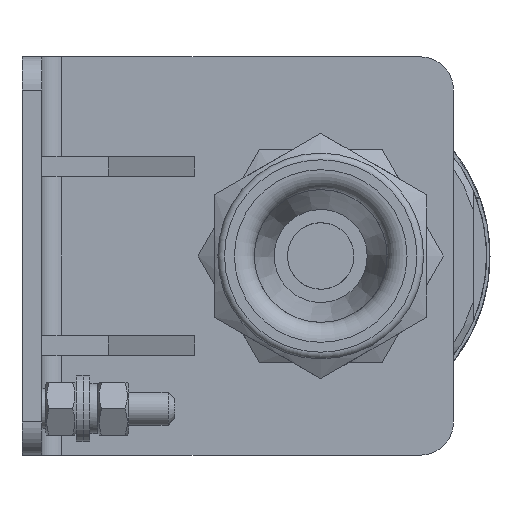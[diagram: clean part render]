
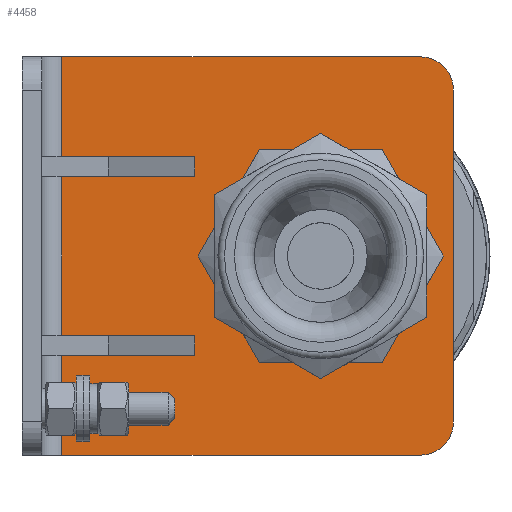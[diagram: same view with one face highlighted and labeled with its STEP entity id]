
A CAD part, left-side view. The second image highlights one B-rep face of the part: STEP entity #4458.
In plain terms, the highlighted planar face has unit normal (-1, 0, 0).
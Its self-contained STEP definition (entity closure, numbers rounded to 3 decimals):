
#4458=ADVANCED_FACE('',(#27531,#27533),#27535,.T.);
#27531=FACE_BOUND('',#27532,.T.);
#27532=EDGE_LOOP('',(#45731));
#27533=FACE_OUTER_BOUND('',#27534,.T.);
#27534=EDGE_LOOP('',(#45732,#45733,#45734,#45735,#45736,#45737));
#27535=PLANE('',#27536);
#27536=AXIS2_PLACEMENT_3D('',#27537,#27538,#27539);
#27537=CARTESIAN_POINT('',(34.5,0.,-32.097));
#27538=DIRECTION('',(-1.,0.,0.));
#27539=DIRECTION('',(0.,0.,1.));
#45731=ORIENTED_EDGE('',*,*,#60580,.T.);
#45732=ORIENTED_EDGE('',*,*,#60581,.F.);
#45733=ORIENTED_EDGE('',*,*,#60582,.T.);
#45734=ORIENTED_EDGE('',*,*,#60583,.F.);
#45735=ORIENTED_EDGE('',*,*,#60584,.T.);
#45736=ORIENTED_EDGE('',*,*,#60526,.F.);
#45737=ORIENTED_EDGE('',*,*,#60585,.T.);
#60526=EDGE_CURVE('',#68286,#68287,#68288,.T.);
#60580=EDGE_CURVE('',#68368,#68368,#68369,.F.);
#60581=EDGE_CURVE('',#68370,#68371,#68372,.T.);
#60582=EDGE_CURVE('',#68370,#68373,#68374,.T.);
#60583=EDGE_CURVE('',#68375,#68373,#68376,.T.);
#60584=EDGE_CURVE('',#68375,#68287,#68377,.T.);
#60585=EDGE_CURVE('',#68286,#68371,#68378,.T.);
#68286=VERTEX_POINT('',#83145);
#68287=VERTEX_POINT('',#83146);
#68288=LINE('',#83147,#83148);
#68368=VERTEX_POINT('',#83350);
#68369=CIRCLE('',#83351,14.25);
#68370=VERTEX_POINT('',#83355);
#68371=VERTEX_POINT('',#83356);
#68372=CIRCLE('',#83357,5.);
#68373=VERTEX_POINT('',#83361);
#68374=LINE('',#83362,#83363);
#68375=VERTEX_POINT('',#83365);
#68376=CIRCLE('',#83366,5.);
#68377=LINE('',#83370,#83371);
#68378=LINE('',#83373,#83374);
#83145=CARTESIAN_POINT('',(34.5,-30.,6.));
#83146=CARTESIAN_POINT('',(34.5,30.,6.));
#83147=CARTESIAN_POINT('',(34.5,-30.,6.));
#83148=VECTOR('',#83149,1.);
#83149=DIRECTION('',(0.,1.,0.));
#83350=CARTESIAN_POINT('',(34.5,0.,30.75));
#83351=AXIS2_PLACEMENT_3D('',#83352,#83353,#83354);
#83352=CARTESIAN_POINT('',(34.5,0.,45.));
#83353=DIRECTION('',(-1.,0.,0.));
#83354=DIRECTION('',(0.,0.,-1.));
#83355=CARTESIAN_POINT('',(34.5,-25.,65.));
#83356=CARTESIAN_POINT('',(34.5,-30.,60.));
#83357=AXIS2_PLACEMENT_3D('',#83358,#83359,#83360);
#83358=CARTESIAN_POINT('',(34.5,-25.,60.));
#83359=DIRECTION('',(1.,0.,0.));
#83360=DIRECTION('',(0.,0.,1.));
#83361=CARTESIAN_POINT('',(34.5,25.,65.));
#83362=CARTESIAN_POINT('',(34.5,-25.,65.));
#83363=VECTOR('',#83364,1.);
#83364=DIRECTION('',(0.,1.,0.));
#83365=CARTESIAN_POINT('',(34.5,30.,60.));
#83366=AXIS2_PLACEMENT_3D('',#83367,#83368,#83369);
#83367=CARTESIAN_POINT('',(34.5,25.,60.));
#83368=DIRECTION('',(1.,0.,0.));
#83369=DIRECTION('',(0.,1.,0.));
#83370=CARTESIAN_POINT('',(34.5,30.,60.));
#83371=VECTOR('',#83372,1.);
#83372=DIRECTION('',(0.,0.,-1.));
#83373=CARTESIAN_POINT('',(34.5,-30.,6.));
#83374=VECTOR('',#83375,1.);
#83375=DIRECTION('',(0.,0.,1.));
